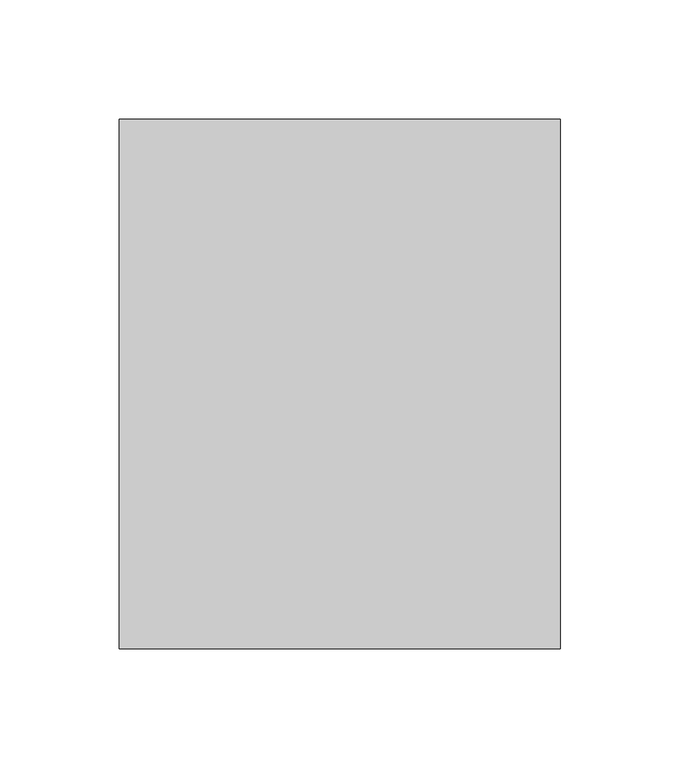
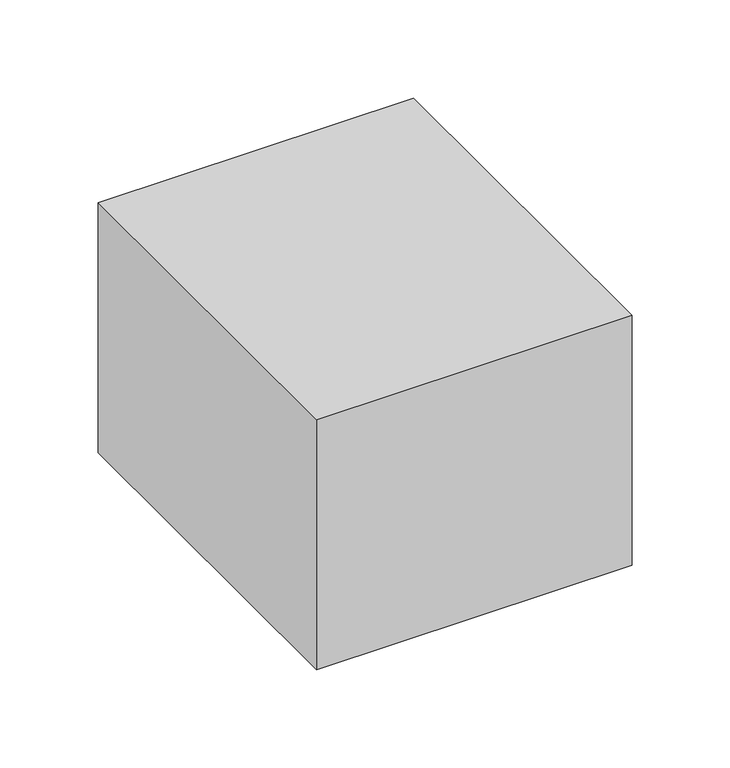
"""IFC4 building model written with IfcOpenShell, lengths in millimetres: light fixture geometry,  1 :  215254."""

from ifc_helpers import new_model, si_unit, frame, origin, place, context, project, spatial, polyline, outline, extrude, source, transform, mapped, element, save


def light_fixture_efbc4ff1(model_context):
    return source(origin(), model_context, "Body", "SweptSolid", [
        extrude(outline(polyline([(17960.4746511, -623.8578255), (18145.4746511, -623.8578255), (18145.4746511, -845.8578255), (17960.4746511, -845.8578255), (17960.4746511, -623.8578255)])), frame((0.0, 0.0, 1375.0), z_axis=(0.0, 0.0, 1.0), x_axis=(1.0, 0.0, 0.0)), (0.0, 0.0, 1.0), 155.0),
    ])


if __name__ == "__main__":
    model = new_model("IFC4")
    model_context = context("Model", 3, world=origin())
    ifc_project = project(units=[si_unit("LENGTHUNIT", "METRE", prefix="MILLI")], contexts=[model_context])
    site = spatial("IfcSite", under=ifc_project)
    building = spatial("IfcBuilding", under=site)
    placement = place(None, origin())
    light_fixture_shape = light_fixture_efbc4ff1(model_context)
    element("IfcLightFixture", 1, ObjectType=" 1 :  215254", at=placement, inside=building, context=model_context, shape_type="MappedRepresentation", body=[
        mapped(light_fixture_shape, transform((0.0, 0.0, 0.0), x_axis=(1.0, 0.0, 0.0), y_axis=(0.0, 1.0, 0.0), z_axis=(0.0, 0.0, 1.0))),
    ])
    save(model, "model.ifc")
